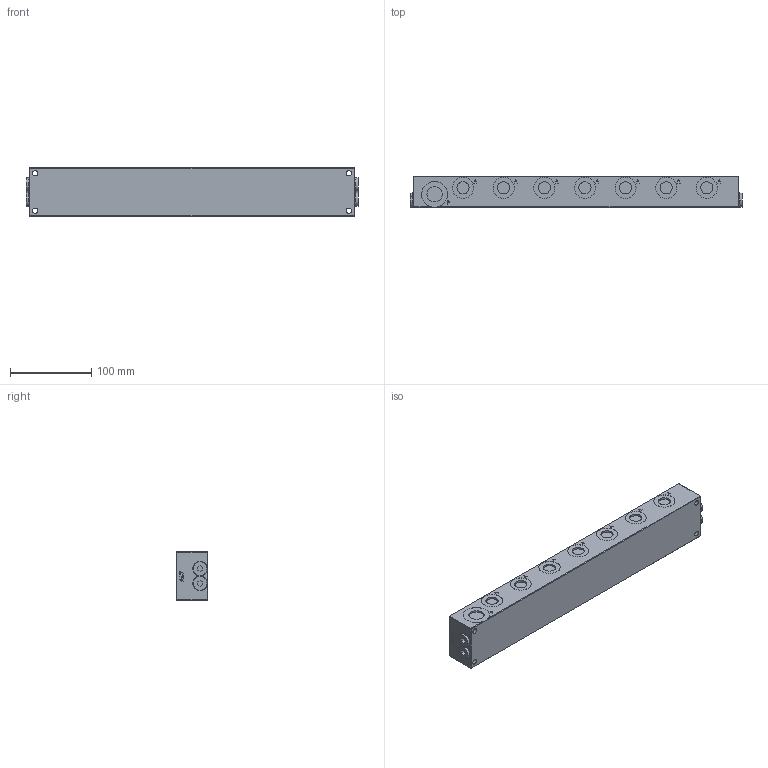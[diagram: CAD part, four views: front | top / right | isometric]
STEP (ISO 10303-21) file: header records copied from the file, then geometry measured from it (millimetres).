
FILE_DESCRIPTION (( 'STEP AP214' ), '1' );
FILE_NAME ('A6_7.STEP', '2017-05-01T14:03:44', ( '' ), ( '' ), 'SwSTEP 2.0', 'SolidWorks 2016', '' );
FILE_SCHEMA (( 'AUTOMOTIVE_DESIGN' ));
Length unit declared in the file: millimetre
Products named in the file (1): A6_7
Bounding box: 408.4 x 38 x 60 mm (x, y, z)
Volume: 896896.1 mm3; surface area: 93686.9 mm2
Topology: 5 solids, 5 shells, 699 faces, 1618 edges, 1071 vertices
Faces by surface type: plane 383, cylinder 222, bspline 78, cone 16
Entity records: 31043 total; most frequent: CARTESIAN_POINT 8447, ORIENTED_EDGE 3236, DIRECTION 3050, EDGE_CURVE 1618, VERTEX_POINT 1071, AXIS2_PLACEMENT_3D 1034, LINE 982, VECTOR 982
